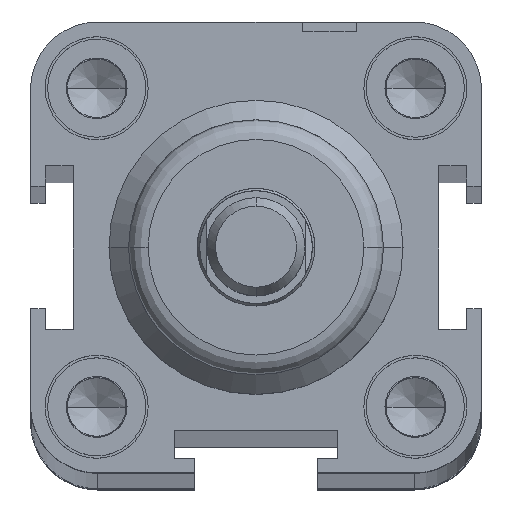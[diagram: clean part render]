
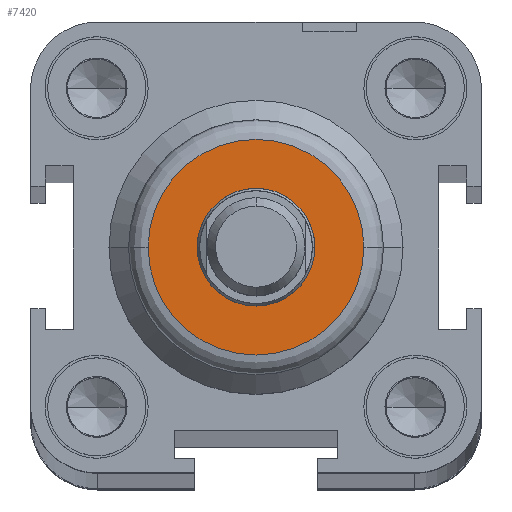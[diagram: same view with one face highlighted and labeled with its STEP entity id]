
A CAD part, top view. The second image highlights one B-rep face of the part: STEP entity #7420.
In plain terms, the highlighted planar face has unit normal (0, 0, 1).
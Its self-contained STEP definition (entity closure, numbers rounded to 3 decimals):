
#1472=CARTESIAN_POINT('',(-11.,0.0,513.));
#1473=VERTEX_POINT('',#1472);
#1481=CARTESIAN_POINT('',(11.,0.,513.));
#1482=VERTEX_POINT('',#1481);
#1483=CARTESIAN_POINT('',(0.0,0.0,513.));
#1484=DIRECTION('',(0.0,0.0,-1.0));
#1485=DIRECTION('',(-1.0,0.0,0.0));
#1486=AXIS2_PLACEMENT_3D('',#1483,#1484,#1485);
#1487=CIRCLE('',#1486,11.);
#1488=EDGE_CURVE('',#1473,#1482,#1487,.T.);
#1593=CARTESIAN_POINT('',(6.,0.0,513.));
#1594=VERTEX_POINT('',#1593);
#1610=CARTESIAN_POINT('',(-6.,0.,513.));
#1611=VERTEX_POINT('',#1610);
#1618=CARTESIAN_POINT('',(0.0,0.0,513.));
#1619=DIRECTION('',(0.0,0.0,-1.0));
#1620=DIRECTION('',(1.0,0.0,0.0));
#1621=AXIS2_PLACEMENT_3D('',#1618,#1619,#1620);
#1622=CIRCLE('',#1621,6.);
#1623=EDGE_CURVE('',#1594,#1611,#1622,.T.);
#7347=CARTESIAN_POINT('',(0.0,0.0,513.));
#7348=DIRECTION('',(0.0,0.0,-1.0));
#7349=DIRECTION('',(1.0,0.0,0.0));
#7350=AXIS2_PLACEMENT_3D('',#7347,#7348,#7349);
#7351=CIRCLE('',#7350,6.);
#7352=EDGE_CURVE('',#1611,#1594,#7351,.T.);
#7401=CARTESIAN_POINT('',(-5.5,0.0,513.));
#7402=DIRECTION('',(0.0,0.0,1.0));
#7403=DIRECTION('',(1.0,0.0,0.0));
#7404=AXIS2_PLACEMENT_3D('',#7401,#7402,#7403);
#7405=PLANE('',#7404);
#7406=ORIENTED_EDGE('',*,*,#1488,.F.);
#7407=CARTESIAN_POINT('',(0.0,0.0,513.));
#7408=DIRECTION('',(0.0,0.0,-1.0));
#7409=DIRECTION('',(-1.0,0.0,0.0));
#7410=AXIS2_PLACEMENT_3D('',#7407,#7408,#7409);
#7411=CIRCLE('',#7410,11.);
#7412=EDGE_CURVE('',#1482,#1473,#7411,.T.);
#7413=ORIENTED_EDGE('',*,*,#7412,.F.);
#7414=EDGE_LOOP('',(#7406,#7413));
#7415=FACE_OUTER_BOUND('',#7414,.T.);
#7416=ORIENTED_EDGE('',*,*,#1623,.T.);
#7417=ORIENTED_EDGE('',*,*,#7352,.T.);
#7418=EDGE_LOOP('',(#7416,#7417));
#7419=FACE_BOUND('',#7418,.T.);
#7420=ADVANCED_FACE('',(#7415,#7419),#7405,.T.);
